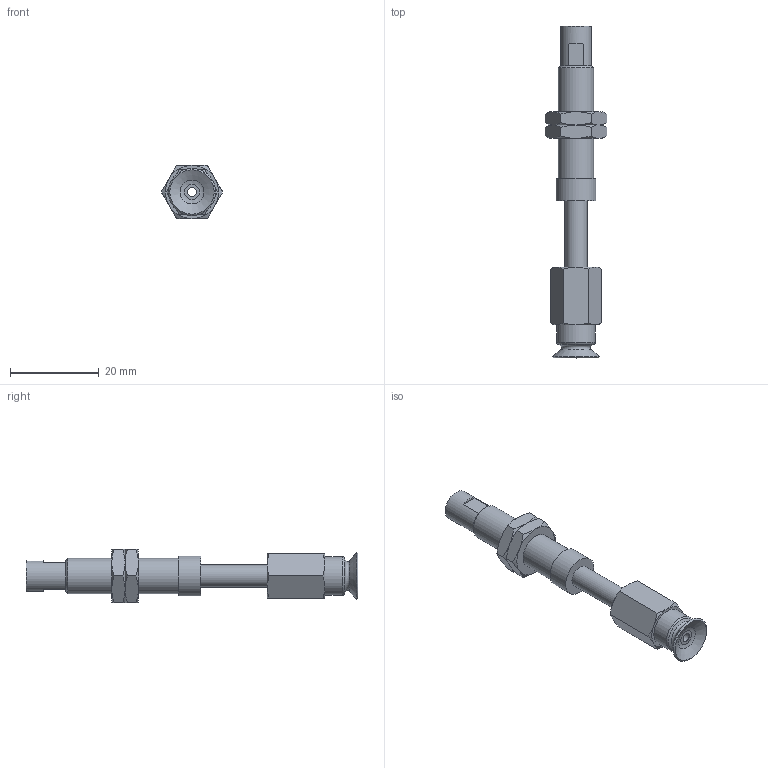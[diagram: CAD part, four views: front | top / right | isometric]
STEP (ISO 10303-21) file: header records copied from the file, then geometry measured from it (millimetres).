
FILE_DESCRIPTION(('STEP AP203'),'1');
FILE_NAME('.stp','2025-08-27T05:47:44',(' '),(' '),'Spatial InterOp 3D',' ',' ');
FILE_SCHEMA(('CONFIG_CONTROL_DESIGN'));
Length unit declared in the file: millimetre
Products named in the file (6): BNABPFTS-10A-15-※; ADAPTER; NAPATS-10A-15--M; Nut-10A-15-s; NAPFTS-10A-15-FBODY; BPFG-10A-※
Assembly tree (6 placements, depth 2):
  BNABPFTS-10A-15-※
    ADAPTER
    NAPATS-10A-15--M
    Nut-10A-15-s  x2
    NAPFTS-10A-15-FBODY
    BPFG-10A-※
Bounding box: 13.86 x 75 x 12 mm (x, y, z)
Volume: 3928.5 mm3; surface area: 4652.7 mm2
Topology: 6 solids, 6 shells, 113 faces, 234 edges, 141 vertices
Faces by surface type: cone 46, plane 42, cylinder 16, torus 8, bspline 1
Full cylindrical faces by diameter (mm): 2 x3, 4 x2, 4.134 x1, 5 x2, 6 x2, 7 x1, 7.188 x2, 8 x1, 8.7 x1, 9 x1
Entity records: 2667 total; most frequent: CARTESIAN_POINT 662, DIRECTION 364, ORIENTED_EDGE 290, AXIS2_PLACEMENT_3D 171, EDGE_CURVE 145, EDGE_LOOP 140, FACE_OUTER_BOUND 114, VERTEX_POINT 105
